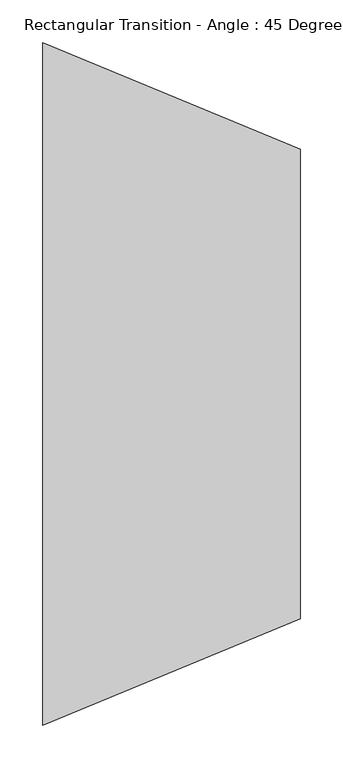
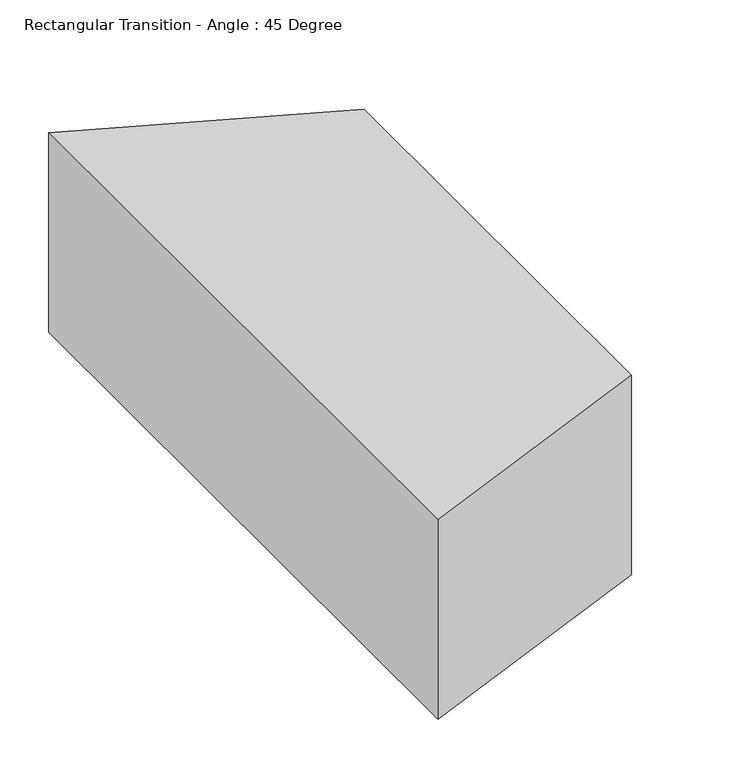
"""IFC4 building model written with IfcOpenShell, lengths in millimetres: duct fitting geometry, Rectangular Transition - Angle : 45 Degree."""

from ifc_helpers import new_model, si_unit, frame, origin, place, context, project, spatial, polyline, outline, extrude, source, transform, mapped, element, save


def rectangular_transition_angle_45_degree_8a643e5c(model_context):
    return source(origin(), model_context, "Body", "SweptSolid", [
        extrude(outline(polyline([(0.0, -400.0), (0.0, 400.0), (301.7766953, 275.0), (301.7766953, -275.0), (0.0, -400.0)])), frame((0.0, 0.0, -125.0), z_axis=(0.0, 0.0, 1.0), x_axis=(1.0, 0.0, 0.0)), (0.0, 0.0, 1.0), 250.0),
    ])


if __name__ == "__main__":
    model = new_model("IFC4")
    model_context = context("Model", 3, world=origin())
    ifc_project = project(units=[si_unit("LENGTHUNIT", "METRE", prefix="MILLI")], contexts=[model_context])
    site = spatial("IfcSite", under=ifc_project)
    building = spatial("IfcBuilding", under=site)
    placement = place(None, origin())
    rectangular_transition_angle_45_degree_shape = rectangular_transition_angle_45_degree_8a643e5c(model_context)
    element("IfcDuctFitting", 1, ObjectType="Rectangular Transition - Angle : 45 Degree", at=placement, inside=building, context=model_context, shape_type="MappedRepresentation", body=[
        mapped(rectangular_transition_angle_45_degree_shape, transform((0.0, 0.0, 0.0), x_axis=(1.0, 0.0, 0.0), y_axis=(0.0, 1.0, 0.0), z_axis=(0.0, 0.0, 1.0))),
    ])
    save(model, "model.ifc")
